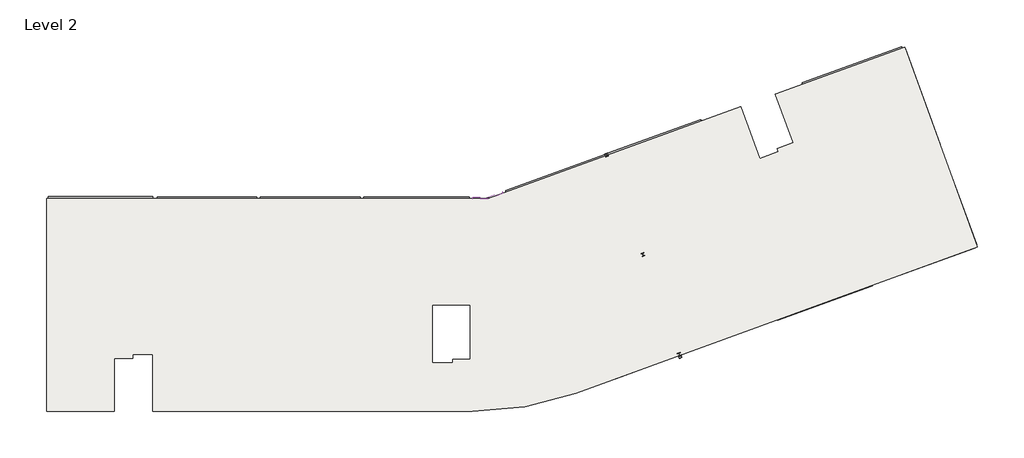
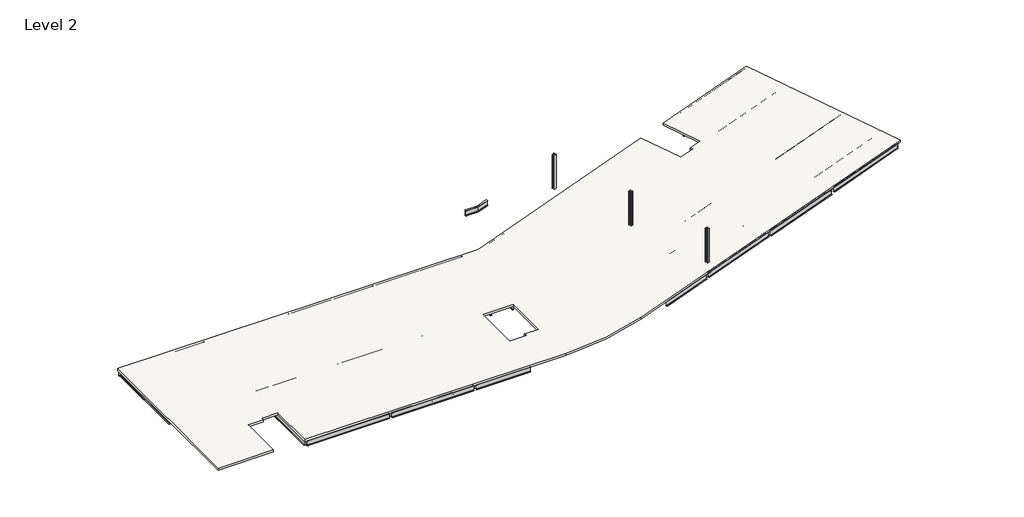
# One storey: 88 beams, 3 columns, 1 slab.
"""IFC4 building model written with IfcOpenShell, lengths in millimetres."""

from ifc_helpers import new_model, si_unit, frame, origin, place, context, project, spatial, circle_curve, transform, mapped, element, save
from ifc_brep_helpers import plane_surface, cylinder_surface, advanced_brep
from components import beam_fb4f222d, l_unequal_leg_angles_l150x75x12_5957f89b, ub_universal_beams_ub305x127x37_f823aa85, ub_universal_beams_ub305x127x37_cdbcbb51, ub_universal_beams_ub305x127x37_8d1efc97, ub_universal_beams_ub305x127x37_2b7a043a, ub_universal_beams_ub305x127x37_8d2b0bf5, ub_universal_beams_ub305x127x37_777f85ab, ub_universal_beams_ub305x127x37_16a75a32, ub_universal_beams_ub305x127x37_b9a7bbe5, ub_universal_beams_ub305x127x37_60794b88, ub_universal_beams_ub305x127x37_0c249d50, ub_universal_beams_ub457x152x67_de37d5a7, ub_universal_beams_ub457x152x67_a95554c7, ub_universal_beams_ub457x152x67_885cc86f, ub_universal_beams_ub457x152x67_c84566a2, ub_universal_beams_ub457x152x67_4841b023, ub_universal_beams_ub457x152x67_20791346, ub_universal_beams_ub457x152x67_59459dd6, ub_universal_beams_ub457x152x67_568b5c51, ub_universal_beams_ub457x152x67_feb0265b, ub_universal_beams_ub457x152x67_78ad538f, ub_universal_beams_ub457x152x67_801fcbf0, ub_universal_beams_ub457x152x67_7192e0ee, ub_universal_beams_ub457x152x67_e0a47d06, ub_universal_beams_ub457x152x67_f5dc209c, ub_universal_beams_ub457x152x67_f862a4b8, ub_universal_beams_ub457x152x67_21f5ef47, ub_universal_beams_ub457x152x67_7b4bcd9a, ub_universal_beams_ub457x152x67_37de3949, ub_universal_beams_ub457x152x67_656765b2, ub_universal_beams_ub457x152x67_43212cfb, ub_universal_beams_ub457x152x67_25e113f4, ub_universal_beams_ub457x152x67_bf94d013, ub_universal_beams_ub457x152x67_e915e172, ub_universal_beams_ub457x152x67_813faa96, ub_universal_beams_ub457x152x67_6f79b88a, ub_universal_beams_ub457x152x67_b3efd6a2, ub_universal_beams_ub457x152x67_5d27a3bd, ub_universal_beams_ub457x152x67_54a4210b, ub_universal_beams_ub457x152x67_30e2d671, ub_universal_beams_ub533x210x82_8ec85ef7, ub_universal_beams_ub533x210x82_0fc11a2d, ub_universal_beams_ub533x210x82_892b370d, uc_universal_columns_column_uc203x203x71_4bd1f15e

model = new_model("IFC4")

# Units and contexts
model_context = context("Model", 3, world=origin())
ifc_project = project(units=[si_unit("LENGTHUNIT", "METRE", prefix="MILLI")], contexts=[model_context])

# Site, building, storey
site = spatial("IfcSite", under=ifc_project)
building = spatial("IfcBuilding", under=site)
storey = spatial("IfcBuildingStorey", under=building, Name="Level 2", Elevation=7595.0)

# Beams
placement = place(None, origin())
beam_shape = beam_fb4f222d(model_context)
element("IfcBeam", 1, ObjectType="Cranked Beam B3 : Cranked Beam B1", at=placement, inside=storey, context=model_context, shape_type="MappedRepresentation", body=[
    mapped(beam_shape, transform((0.0, 0.0, 0.0), x_axis=(1.0, 0.0, 0.0), y_axis=(0.0, 1.0, 0.0), z_axis=(0.0, 0.0, 1.0))),
])
l_unequal_leg_angles_l150x75x12_shape = l_unequal_leg_angles_l150x75x12_5957f89b(model_context)
element("IfcBeam", 2, ObjectType="L-Unequal Leg Angles : L150x75x12", at=placement, inside=storey, context=model_context, shape_type="MappedRepresentation", body=[
    mapped(l_unequal_leg_angles_l150x75x12_shape, transform((45120.9767448, 4161.3796452, 7750.0), x_axis=(0.9396926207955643, 0.3420201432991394, 0.0), y_axis=(0.0, 0.0, 1.0), z_axis=(0.3420201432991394, -0.9396926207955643, 0.0))),
])
ub_universal_beams_ub305x127x37_shape = ub_universal_beams_ub305x127x37_f823aa85(model_context)
element("IfcBeam", 3, ObjectType="UB-Universal Beams : UB305x127x37", at=placement, inside=storey, context=model_context, shape_type="MappedRepresentation", body=[
    mapped(ub_universal_beams_ub305x127x37_shape, transform((9887.2000022, 11613.2000005, 7442.8), x_axis=(0.0, 1.0, 0.0), y_axis=(-1.0, 0.0, 0.0), z_axis=(0.0, 0.0, 1.0))),
])
element("IfcBeam", 4, ObjectType="UB-Universal Beams : UB305x127x37", at=placement, inside=storey, context=model_context, shape_type="MappedRepresentation", body=[
    mapped(ub_universal_beams_ub305x127x37_shape, transform((11712.2000022, 11613.2000005, 7442.8), x_axis=(0.0, 1.0, 0.0), y_axis=(-1.0, 0.0, 0.0), z_axis=(0.0, 0.0, 1.0))),
])
element("IfcBeam", 5, ObjectType="UB-Universal Beams : UB305x127x37", at=placement, inside=storey, context=model_context, shape_type="MappedRepresentation", body=[
    mapped(ub_universal_beams_ub305x127x37_shape, transform((13537.2000023, 11613.2000005, 7442.8), x_axis=(0.0, 1.0, 0.0), y_axis=(-1.0, 0.0, 0.0), z_axis=(0.0, 0.0, 1.0))),
])
element("IfcBeam", 6, ObjectType="UB-Universal Beams : UB305x127x37", at=placement, inside=storey, context=model_context, shape_type="MappedRepresentation", body=[
    mapped(ub_universal_beams_ub305x127x37_shape, transform((17187.2000023, 11613.2000005, 7442.8), x_axis=(0.0, 1.0, 0.0), y_axis=(-1.0, 0.0, 0.0), z_axis=(0.0, 0.0, 1.0))),
])
element("IfcBeam", 7, ObjectType="UB-Universal Beams : UB305x127x37", at=placement, inside=storey, context=model_context, shape_type="MappedRepresentation", body=[
    mapped(ub_universal_beams_ub305x127x37_shape, transform((19012.2000023, 11613.2000005, 7442.8), x_axis=(0.0, 1.0, 0.0), y_axis=(-1.0, 0.0, 0.0), z_axis=(0.0, 0.0, 1.0))),
])
element("IfcBeam", 8, ObjectType="UB-Universal Beams : UB305x127x37", at=placement, inside=storey, context=model_context, shape_type="MappedRepresentation", body=[
    mapped(ub_universal_beams_ub305x127x37_shape, transform((20837.2000022, 11613.2000005, 7442.8), x_axis=(0.0, 1.0, 0.0), y_axis=(-1.0, 0.0, 0.0), z_axis=(0.0, 0.0, 1.0))),
])
element("IfcBeam", 9, ObjectType="UB-Universal Beams : UB305x127x37", at=placement, inside=storey, context=model_context, shape_type="MappedRepresentation", body=[
    mapped(ub_universal_beams_ub305x127x37_shape, transform((24587.2000022, 11613.2000005, 7442.8), x_axis=(0.0, 1.0, 0.0), y_axis=(-1.0, 0.0, 0.0), z_axis=(0.0, 0.0, 1.0))),
])
element("IfcBeam", 10, ObjectType="UB-Universal Beams : UB305x127x37", at=placement, inside=storey, context=model_context, shape_type="MappedRepresentation", body=[
    mapped(ub_universal_beams_ub305x127x37_shape, transform((26512.2000022, 11613.2000005, 7442.8), x_axis=(0.0, 1.0, 0.0), y_axis=(-1.0, 0.0, 0.0), z_axis=(0.0, 0.0, 1.0))),
])
element("IfcBeam", 11, ObjectType="UB-Universal Beams : UB305x127x37", at=placement, inside=storey, context=model_context, shape_type="MappedRepresentation", body=[
    mapped(ub_universal_beams_ub305x127x37_shape, transform((17187.2000022, 4113.2000005, 7442.8), x_axis=(0.0, 1.0, 0.0), y_axis=(-1.0, 0.0, 0.0), z_axis=(0.0, 0.0, 1.0))),
])
element("IfcBeam", 12, ObjectType="UB-Universal Beams : UB305x127x37", at=placement, inside=storey, context=model_context, shape_type="MappedRepresentation", body=[
    mapped(ub_universal_beams_ub305x127x37_shape, transform((19012.2000022, 4113.2000005, 7442.8), x_axis=(0.0, 1.0, 0.0), y_axis=(-1.0, 0.0, 0.0), z_axis=(0.0, 0.0, 1.0))),
])
element("IfcBeam", 13, ObjectType="UB-Universal Beams : UB305x127x37", at=placement, inside=storey, context=model_context, shape_type="MappedRepresentation", body=[
    mapped(ub_universal_beams_ub305x127x37_shape, transform((20837.2000022, 4113.2000005, 7442.8), x_axis=(0.0, 1.0, 0.0), y_axis=(-1.0, 0.0, 0.0), z_axis=(0.0, 0.0, 1.0))),
])
element("IfcBeam", 14, ObjectType="UB-Universal Beams : UB305x127x37", at=placement, inside=storey, context=model_context, shape_type="MappedRepresentation", body=[
    mapped(ub_universal_beams_ub305x127x37_shape, transform((24587.2000022, 4113.2000004, 7442.8), x_axis=(0.0, 1.0, 0.0), y_axis=(-1.0, 0.0, 0.0), z_axis=(0.0, 0.0, 1.0))),
])
element("IfcBeam", 15, ObjectType="UB-Universal Beams : UB305x127x37", at=placement, inside=storey, context=model_context, shape_type="MappedRepresentation", body=[
    mapped(ub_universal_beams_ub305x127x37_shape, transform((26512.2000022, 4113.2000004, 7442.8), x_axis=(0.0, 1.0, 0.0), y_axis=(-1.0, 0.0, 0.0), z_axis=(0.0, 0.0, 1.0))),
])
element("IfcBeam", 16, ObjectType="UB-Universal Beams : UB305x127x37", at=placement, inside=storey, context=model_context, shape_type="MappedRepresentation", body=[
    mapped(ub_universal_beams_ub305x127x37_shape, transform((39409.0148654, 14226.6858637, 7442.8), x_axis=(0.34202014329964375, -0.9396926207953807, 0.0), y_axis=(0.9396926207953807, 0.34202014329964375, 0.0), z_axis=(0.0, 0.0, 1.0))),
])
element("IfcBeam", 17, ObjectType="UB-Universal Beams : UB305x127x37", at=placement, inside=storey, context=model_context, shape_type="MappedRepresentation", body=[
    mapped(ub_universal_beams_ub305x127x37_shape, transform((37600.1065704, 13568.2970878, 7442.8), x_axis=(0.34202014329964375, -0.9396926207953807, 0.0), y_axis=(0.9396926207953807, 0.34202014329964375, 0.0), z_axis=(0.0, 0.0, 1.0))),
])
element("IfcBeam", 18, ObjectType="UB-Universal Beams : UB305x127x37", at=placement, inside=storey, context=model_context, shape_type="MappedRepresentation", body=[
    mapped(ub_universal_beams_ub305x127x37_shape, transform((42915.2429568, 15502.8485233, 7442.8), x_axis=(-0.3420201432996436, 0.9396926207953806, 0.0), y_axis=(-0.9396926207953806, -0.3420201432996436, 0.0), z_axis=(0.0, 0.0, 1.0))),
])
element("IfcBeam", 19, ObjectType="UB-Universal Beams : UB305x127x37", at=placement, inside=storey, context=model_context, shape_type="MappedRepresentation", body=[
    mapped(ub_universal_beams_ub305x127x37_shape, transform((44612.5627531, 16120.6224071, 7442.8), x_axis=(-0.34202014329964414, 0.9396926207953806, 0.0), y_axis=(-0.9396926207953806, -0.34202014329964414, 0.0), z_axis=(0.0, 0.0, 1.0))),
])
element("IfcBeam", 20, ObjectType="UB-Universal Beams : UB305x127x37", at=placement, inside=storey, context=model_context, shape_type="MappedRepresentation", body=[
    mapped(ub_universal_beams_ub305x127x37_shape, transform((46309.8825494, 16738.396291, 7442.8), x_axis=(-0.34202014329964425, 0.9396926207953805, 0.0), y_axis=(-0.9396926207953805, -0.34202014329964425, 0.0), z_axis=(0.0, 0.0, 1.0))),
])
ub_universal_beams_ub305x127x37_2_shape = ub_universal_beams_ub305x127x37_cdbcbb51(model_context)
element("IfcBeam", 21, ObjectType="UB-Universal Beams : UB305x127x37", at=placement, inside=storey, context=model_context, shape_type="MappedRepresentation", body=[
    mapped(ub_universal_beams_ub305x127x37_2_shape, transform((28437.2000022, 11613.2000005, 7442.8), x_axis=(0.0, 1.0, 0.0), y_axis=(-1.0, 0.0, 0.0), z_axis=(0.0, 0.0, 1.0))),
])
ub_universal_beams_ub305x127x37_3_shape = ub_universal_beams_ub305x127x37_8d1efc97(model_context)
element("IfcBeam", 22, ObjectType="UB-Universal Beams : UB305x127x37", at=placement, inside=storey, context=model_context, shape_type="MappedRepresentation", body=[
    mapped(ub_universal_beams_ub305x127x37_3_shape, transform((35791.1982754, 12909.908312, 7442.8), x_axis=(0.3420201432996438, -0.9396926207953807, 0.0), y_axis=(0.9396926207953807, 0.3420201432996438, 0.0), z_axis=(0.0, 0.0, 1.0))),
])
ub_universal_beams_ub305x127x37_4_shape = ub_universal_beams_ub305x127x37_2b7a043a(model_context)
element("IfcBeam", 23, ObjectType="UB-Universal Beams : UB305x127x37", at=placement, inside=storey, context=model_context, shape_type="MappedRepresentation", body=[
    mapped(ub_universal_beams_ub305x127x37_4_shape, transform((42122.1150828, 5237.5069684, 7442.8), x_axis=(-0.939692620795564, -0.3420201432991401, 0.0), y_axis=(0.3420201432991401, -0.939692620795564, 0.0), z_axis=(0.0, 0.0, 1.0))),
])
element("IfcBeam", 24, ObjectType="UB-Universal Beams : UB305x127x37", at=placement, inside=storey, context=model_context, shape_type="MappedRepresentation", body=[
    mapped(ub_universal_beams_ub305x127x37_4_shape, transform((41480.8273141, 6999.4306323, 7442.8), x_axis=(-0.9396926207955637, -0.3420201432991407, 0.0), y_axis=(0.3420201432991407, -0.9396926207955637, 0.0), z_axis=(0.0, 0.0, 1.0))),
])
element("IfcBeam", 25, ObjectType="UB-Universal Beams : UB305x127x37", at=placement, inside=storey, context=model_context, shape_type="MappedRepresentation", body=[
    mapped(ub_universal_beams_ub305x127x37_4_shape, transform((40839.5395455, 8761.3542963, 7442.8), x_axis=(-0.939692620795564, -0.3420201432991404, 0.0), y_axis=(0.3420201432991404, -0.939692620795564, 0.0), z_axis=(0.0, 0.0, 1.0))),
])
ub_universal_beams_ub305x127x37_5_shape = ub_universal_beams_ub305x127x37_8d2b0bf5(model_context)
element("IfcBeam", 26, ObjectType="UB-Universal Beams : UB305x127x37", at=placement, inside=storey, context=model_context, shape_type="MappedRepresentation", body=[
    mapped(ub_universal_beams_ub305x127x37_5_shape, transform((46536.4260592, 10834.8514152, 7442.8), x_axis=(0.9396926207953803, 0.342020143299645, 0.0), y_axis=(-0.342020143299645, 0.9396926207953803, 0.0), z_axis=(0.0, 0.0, 1.0))),
])
element("IfcBeam", 27, ObjectType="UB-Universal Beams : UB305x127x37", at=placement, inside=storey, context=model_context, shape_type="MappedRepresentation", body=[
    mapped(ub_universal_beams_ub305x127x37_5_shape, transform((47177.7138279, 9072.9277512, 7442.8), x_axis=(0.9396926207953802, 0.34202014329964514, 0.0), y_axis=(-0.34202014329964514, 0.9396926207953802, 0.0), z_axis=(0.0, 0.0, 1.0))),
])
element("IfcBeam", 28, ObjectType="UB-Universal Beams : UB305x127x37", at=placement, inside=storey, context=model_context, shape_type="MappedRepresentation", body=[
    mapped(ub_universal_beams_ub305x127x37_5_shape, transform((47819.0015966, 7311.0040872, 7442.8), x_axis=(0.9396926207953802, 0.3420201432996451, 0.0), y_axis=(-0.3420201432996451, 0.9396926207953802, 0.0), z_axis=(0.0, 0.0, 1.0))),
])
ub_universal_beams_ub305x127x37_6_shape = ub_universal_beams_ub305x127x37_777f85ab(model_context)
element("IfcBeam", 29, ObjectType="UB-Universal Beams : UB305x127x37", at=placement, inside=storey, context=model_context, shape_type="MappedRepresentation", body=[
    mapped(ub_universal_beams_ub305x127x37_6_shape, transform((60479.1153202, 15909.5752914, 7442.8), x_axis=(0.9396926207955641, 0.34202014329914, 0.0), y_axis=(-0.34202014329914, 0.9396926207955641, 0.0), z_axis=(0.0, 0.0, 1.0))),
])
element("IfcBeam", 30, ObjectType="UB-Universal Beams : UB305x127x37", at=placement, inside=storey, context=model_context, shape_type="MappedRepresentation", body=[
    mapped(ub_universal_beams_ub305x127x37_6_shape, transform((61120.4030889, 14147.6516274, 7442.8), x_axis=(0.9396926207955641, 0.34202014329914, 0.0), y_axis=(-0.34202014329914, 0.9396926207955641, 0.0), z_axis=(0.0, 0.0, 1.0))),
])
element("IfcBeam", 31, ObjectType="UB-Universal Beams : UB305x127x37", at=placement, inside=storey, context=model_context, shape_type="MappedRepresentation", body=[
    mapped(ub_universal_beams_ub305x127x37_6_shape, transform((61761.6908576, 12385.7279634, 7442.8), x_axis=(0.9396926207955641, 0.3420201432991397, 0.0), y_axis=(-0.3420201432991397, 0.9396926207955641, 0.0), z_axis=(0.0, 0.0, 1.0))),
])
element("IfcBeam", 32, ObjectType="UB-Universal Beams : UB305x127x37", at=placement, inside=storey, context=model_context, shape_type="MappedRepresentation", body=[
    mapped(ub_universal_beams_ub305x127x37_6_shape, transform((57913.9642455, 22957.2699473, 7442.8), x_axis=(0.9396926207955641, 0.3420201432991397, 0.0), y_axis=(-0.3420201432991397, 0.9396926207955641, 0.0), z_axis=(0.0, 0.0, 1.0))),
])
element("IfcBeam", 33, ObjectType="UB-Universal Beams : UB305x127x37", at=placement, inside=storey, context=model_context, shape_type="MappedRepresentation", body=[
    mapped(ub_universal_beams_ub305x127x37_6_shape, transform((58555.2520142, 21195.3462833, 7442.8), x_axis=(0.9396926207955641, 0.3420201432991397, 0.0), y_axis=(-0.3420201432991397, 0.9396926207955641, 0.0), z_axis=(0.0, 0.0, 1.0))),
])
element("IfcBeam", 34, ObjectType="UB-Universal Beams : UB305x127x37", at=placement, inside=storey, context=model_context, shape_type="MappedRepresentation", body=[
    mapped(ub_universal_beams_ub305x127x37_6_shape, transform((59196.5397829, 19433.4226193, 7442.8), x_axis=(0.9396926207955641, 0.3420201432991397, 0.0), y_axis=(-0.3420201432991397, 0.9396926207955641, 0.0), z_axis=(0.0, 0.0, 1.0))),
])
ub_universal_beams_ub305x127x37_7_shape = ub_universal_beams_ub305x127x37_16a75a32(model_context)
element("IfcBeam", 35, ObjectType="UB-Universal Beams : UB305x127x37", at=placement, inside=storey, context=model_context, shape_type="MappedRepresentation", body=[
    mapped(ub_universal_beams_ub305x127x37_7_shape, transform((52185.7228693, 11321.365084, 7442.8), x_axis=(0.9396926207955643, 0.3420201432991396, 0.0), y_axis=(-0.3420201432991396, 0.9396926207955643, 0.0), z_axis=(0.0, 0.0, 1.0))),
])
element("IfcBeam", 36, ObjectType="UB-Universal Beams : UB305x127x37", at=placement, inside=storey, context=model_context, shape_type="MappedRepresentation", body=[
    mapped(ub_universal_beams_ub305x127x37_7_shape, transform((51681.2431579, 12707.4116997, 7442.8), x_axis=(0.9396926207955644, 0.34202014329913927, 0.0), y_axis=(-0.34202014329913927, 0.9396926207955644, 0.0), z_axis=(0.0, 0.0, 1.0))),
])
ub_universal_beams_ub305x127x37_8_shape = ub_universal_beams_ub305x127x37_b9a7bbe5(model_context)
element("IfcBeam", 37, ObjectType="UB-Universal Beams : UB305x127x37", at=placement, inside=storey, context=model_context, shape_type="MappedRepresentation", body=[
    mapped(ub_universal_beams_ub305x127x37_8_shape, transform((55650.8394085, 12582.5643624, 7442.8), x_axis=(0.939692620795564, 0.34202014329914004, 0.0), y_axis=(-0.34202014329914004, 0.939692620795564, 0.0), z_axis=(0.0, 0.0, 1.0))),
])
element("IfcBeam", 38, ObjectType="UB-Universal Beams : UB305x127x37", at=placement, inside=storey, context=model_context, shape_type="MappedRepresentation", body=[
    mapped(ub_universal_beams_ub305x127x37_8_shape, transform((56300.6776807, 10797.1483829, 7442.8), x_axis=(0.9396926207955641, 0.3420201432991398, 0.0), y_axis=(-0.3420201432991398, 0.9396926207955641, 0.0), z_axis=(0.0, 0.0, 1.0))),
])
element("IfcBeam", 39, ObjectType="UB-Universal Beams : UB305x127x37", at=placement, inside=storey, context=model_context, shape_type="MappedRepresentation", body=[
    mapped(ub_universal_beams_ub305x127x37_8_shape, transform((55146.3596971, 13968.6109781, 7442.8), x_axis=(0.9396926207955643, 0.34202014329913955, 0.0), y_axis=(-0.34202014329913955, 0.9396926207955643, 0.0), z_axis=(0.0, 0.0, 1.0))),
])
ub_universal_beams_ub305x127x37_9_shape = ub_universal_beams_ub305x127x37_60794b88(model_context)
element("IfcBeam", 40, ObjectType="UB-Universal Beams : UB305x127x37", at=placement, inside=storey, context=model_context, shape_type="MappedRepresentation", body=[
    mapped(ub_universal_beams_ub305x127x37_9_shape, transform((53431.3248942, 21325.7226526, 7442.8), x_axis=(-0.939692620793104, -0.34202014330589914, 0.0), y_axis=(0.34202014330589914, -0.939692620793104, 0.0), z_axis=(0.0, 0.0, 1.0))),
])
element("IfcBeam", 41, ObjectType="UB-Universal Beams : UB305x127x37", at=placement, inside=storey, context=model_context, shape_type="MappedRepresentation", body=[
    mapped(ub_universal_beams_ub305x127x37_9_shape, transform((54072.6126629, 19563.7989886, 7442.8), x_axis=(-0.939692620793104, -0.3420201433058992, 0.0), y_axis=(0.3420201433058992, -0.939692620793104, 0.0), z_axis=(0.0, 0.0, 1.0))),
])
element("IfcBeam", 42, ObjectType="UB-Universal Beams : UB305x127x37", at=placement, inside=storey, context=model_context, shape_type="MappedRepresentation", body=[
    mapped(ub_universal_beams_ub305x127x37_9_shape, transform((54713.9004316, 17801.8753247, 7442.8), x_axis=(-0.939692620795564, -0.34202014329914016, 0.0), y_axis=(0.34202014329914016, -0.939692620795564, 0.0), z_axis=(0.0, 0.0, 1.0))),
])
ub_universal_beams_ub305x127x37_10_shape = ub_universal_beams_ub305x127x37_0c249d50(model_context)
element("IfcBeam", 43, ObjectType="UB-Universal Beams : UB305x127x37", at=placement, inside=storey, context=model_context, shape_type="MappedRepresentation", body=[
    mapped(ub_universal_beams_ub305x127x37_10_shape, transform((52835.5611416, 9535.9491045, 7442.8), x_axis=(-0.9396926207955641, -0.34202014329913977, 0.0), y_axis=(0.34202014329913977, -0.9396926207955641, 0.0), z_axis=(0.0, 0.0, 1.0))),
])
ub_universal_beams_ub457x152x67_shape = ub_universal_beams_ub457x152x67_de37d5a7(model_context)
element("IfcBeam", 44, ObjectType="UB-Universal Beams : UB457x152x67", at=placement, inside=storey, context=model_context, shape_type="MappedRepresentation", body=[
    mapped(ub_universal_beams_ub457x152x67_shape, transform((26512.2000022, 15363.2000005, 7366.0), x_axis=(1.0, 0.0, 0.0), y_axis=(0.0, 1.0, 0.0), z_axis=(0.0, 0.0, 1.0))),
])
ub_universal_beams_ub457x152x67_2_shape = ub_universal_beams_ub457x152x67_a95554c7(model_context)
element("IfcBeam", 45, ObjectType="UB-Universal Beams : UB457x152x67", at=placement, inside=storey, context=model_context, shape_type="MappedRepresentation", body=[
    mapped(ub_universal_beams_ub457x152x67_2_shape, transform((19012.2000023, 15363.2000005, 7366.0), x_axis=(1.0, 0.0, 0.0), y_axis=(0.0, 1.0, 0.0), z_axis=(0.0, 0.0, 1.0))),
])
element("IfcBeam", 46, ObjectType="UB-Universal Beams : UB457x152x67", at=placement, inside=storey, context=model_context, shape_type="MappedRepresentation", body=[
    mapped(ub_universal_beams_ub457x152x67_2_shape, transform((19012.2000022, 363.2000005, 7366.0), x_axis=(1.0, 0.0, 0.0), y_axis=(0.0, 1.0, 0.0), z_axis=(0.0, 0.0, 1.0))),
])
ub_universal_beams_ub457x152x67_3_shape = ub_universal_beams_ub457x152x67_885cc86f(model_context)
element("IfcBeam", 47, ObjectType="UB-Universal Beams : UB457x152x67", at=placement, inside=storey, context=model_context, shape_type="MappedRepresentation", body=[
    mapped(ub_universal_beams_ub457x152x67_3_shape, transform((11674.7000023, 363.2000005, 7366.0), x_axis=(-1.0, 0.0, 0.0), y_axis=(0.0, -1.0, 0.0), z_axis=(0.0, 0.0, 1.0))),
])
ub_universal_beams_ub457x152x67_4_shape = ub_universal_beams_ub457x152x67_c84566a2(model_context)
element("IfcBeam", 48, ObjectType="UB-Universal Beams : UB457x152x67", at=placement, inside=storey, context=model_context, shape_type="MappedRepresentation", body=[
    mapped(ub_universal_beams_ub457x152x67_4_shape, transform((19012.2000023, 7863.2000004, 7366.0), x_axis=(1.0, 0.0, 0.0), y_axis=(0.0, 1.0, 0.0), z_axis=(0.0, 0.0, 1.0))),
])
ub_universal_beams_ub457x152x67_5_shape = ub_universal_beams_ub457x152x67_4841b023(model_context)
element("IfcBeam", 49, ObjectType="UB-Universal Beams : UB457x152x67", at=placement, inside=storey, context=model_context, shape_type="MappedRepresentation", body=[
    mapped(ub_universal_beams_ub457x152x67_5_shape, transform((25112.2000025, 7863.2000004, 7366.0), x_axis=(1.0, 0.0, 0.0), y_axis=(0.0, 1.0, 0.0), z_axis=(0.0, 0.0, 1.0))),
])
ub_universal_beams_ub457x152x67_6_shape = ub_universal_beams_ub457x152x67_20791346(model_context)
element("IfcBeam", 50, ObjectType="UB-Universal Beams : UB457x152x67", at=placement, inside=storey, context=model_context, shape_type="MappedRepresentation", body=[
    mapped(ub_universal_beams_ub457x152x67_6_shape, transform((25112.2000025, 363.2000005, 7366.0), x_axis=(1.0, 0.0, 0.0), y_axis=(0.0, 1.0, 0.0), z_axis=(0.0, 0.0, 1.0))),
])
ub_universal_beams_ub457x152x67_7_shape = ub_universal_beams_ub457x152x67_59459dd6(model_context)
element("IfcBeam", 51, ObjectType="UB-Universal Beams : UB457x152x67", at=placement, inside=storey, context=model_context, shape_type="MappedRepresentation", body=[
    mapped(ub_universal_beams_ub457x152x67_7_shape, transform((15362.2000023, 4113.2000005, 7366.0), x_axis=(0.0, 1.0, 0.0), y_axis=(-1.0, 0.0, 0.0), z_axis=(0.0, 0.0, 1.0))),
])
element("IfcBeam", 52, ObjectType="UB-Universal Beams : UB457x152x67", at=placement, inside=storey, context=model_context, shape_type="MappedRepresentation", body=[
    mapped(ub_universal_beams_ub457x152x67_7_shape, transform((22662.2000022, 4113.2000005, 7366.0), x_axis=(0.0, 1.0, 0.0), y_axis=(-1.0, 0.0, 0.0), z_axis=(0.0, 0.0, 1.0))),
])
ub_universal_beams_ub457x152x67_8_shape = ub_universal_beams_ub457x152x67_568b5c51(model_context)
element("IfcBeam", 53, ObjectType="UB-Universal Beams : UB457x152x67", at=placement, inside=storey, context=model_context, shape_type="MappedRepresentation", body=[
    mapped(ub_universal_beams_ub457x152x67_8_shape, transform((15362.2000023, 11613.2000005, 7366.0), x_axis=(0.0, 1.0, 0.0), y_axis=(-1.0, 0.0, 0.0), z_axis=(0.0, 0.0, 1.0))),
])
element("IfcBeam", 54, ObjectType="UB-Universal Beams : UB457x152x67", at=placement, inside=storey, context=model_context, shape_type="MappedRepresentation", body=[
    mapped(ub_universal_beams_ub457x152x67_8_shape, transform((22662.2000022, 11613.2000005, 7366.0), x_axis=(0.0, 1.0, 0.0), y_axis=(-1.0, 0.0, 0.0), z_axis=(0.0, 0.0, 1.0))),
])
ub_universal_beams_ub457x152x67_9_shape = ub_universal_beams_ub457x152x67_feb0265b(model_context)
element("IfcBeam", 55, ObjectType="UB-Universal Beams : UB457x152x67", at=placement, inside=storey, context=model_context, shape_type="MappedRepresentation", body=[
    mapped(ub_universal_beams_ub457x152x67_9_shape, transform((32191.7898055, 11821.5156209, 7366.0), x_axis=(0.173648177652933, -0.9848077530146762, 0.0), y_axis=(0.9848077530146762, 0.173648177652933, 0.0), z_axis=(0.0, 0.0, 1.0))),
])
ub_universal_beams_ub457x152x67_10_shape = ub_universal_beams_ub457x152x67_78ad538f(model_context)
element("IfcBeam", 56, ObjectType="UB-Universal Beams : UB457x152x67", at=placement, inside=storey, context=model_context, shape_type="MappedRepresentation", body=[
    mapped(ub_universal_beams_ub457x152x67_10_shape, transform((31317.5755278, 11361.2273115, 7366.0), x_axis=(1.0, 0.0, 0.0), y_axis=(0.0, 1.0, 0.0), z_axis=(0.0, 0.0, 1.0))),
])
ub_universal_beams_ub457x152x67_11_shape = ub_universal_beams_ub457x152x67_801fcbf0(model_context)
element("IfcBeam", 57, ObjectType="UB-Universal Beams : UB457x152x67", at=placement, inside=storey, context=model_context, shape_type="MappedRepresentation", body=[
    mapped(ub_universal_beams_ub457x152x67_11_shape, transform((33170.7103845, 11687.9849855, 7366.0), x_axis=(0.9396926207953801, 0.3420201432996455, 0.0), y_axis=(-0.3420201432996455, 0.9396926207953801, 0.0), z_axis=(0.0, 0.0, 1.0))),
])
ub_universal_beams_ub457x152x67_12_shape = ub_universal_beams_ub457x152x67_7192e0ee(model_context)
element("IfcBeam", 58, ObjectType="UB-Universal Beams : UB457x152x67", at=placement, inside=storey, context=model_context, shape_type="MappedRepresentation", body=[
    mapped(ub_universal_beams_ub457x152x67_12_shape, transform((43329.9872158, 19644.4697351, 7366.0), x_axis=(0.9396926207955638, 0.3420201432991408, 0.0), y_axis=(-0.3420201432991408, 0.9396926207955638, 0.0), z_axis=(0.0, 0.0, 1.0))),
])
element("IfcBeam", 59, ObjectType="UB-Universal Beams : UB457x152x67", at=placement, inside=storey, context=model_context, shape_type="MappedRepresentation", body=[
    mapped(ub_universal_beams_ub457x152x67_12_shape, transform((45895.1382905, 12596.7750792, 7366.0), x_axis=(0.9396926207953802, 0.34202014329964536, 0.0), y_axis=(-0.34202014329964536, 0.9396926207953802, 0.0), z_axis=(0.0, 0.0, 1.0))),
])
element("IfcBeam", 60, ObjectType="UB-Universal Beams : UB457x152x67", at=placement, inside=storey, context=model_context, shape_type="MappedRepresentation", body=[
    mapped(ub_universal_beams_ub457x152x67_12_shape, transform((48460.2893652, 5549.0804232, 7366.0), x_axis=(0.9396926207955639, 0.3420201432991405, 0.0), y_axis=(-0.3420201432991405, 0.9396926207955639, 0.0), z_axis=(0.0, 0.0, 1.0))),
])
ub_universal_beams_ub457x152x67_13_shape = ub_universal_beams_ub457x152x67_e0a47d06(model_context)
element("IfcBeam", 61, ObjectType="UB-Universal Beams : UB457x152x67", at=placement, inside=storey, context=model_context, shape_type="MappedRepresentation", body=[
    mapped(ub_universal_beams_ub457x152x67_13_shape, transform((40198.2517768, 10523.2779603, 7366.0), x_axis=(0.9396926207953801, 0.34202014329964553, 0.0), y_axis=(-0.34202014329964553, 0.9396926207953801, 0.0), z_axis=(0.0, 0.0, 1.0))),
])
ub_universal_beams_ub457x152x67_14_shape = ub_universal_beams_ub457x152x67_f5dc209c(model_context)
element("IfcBeam", 62, ObjectType="UB-Universal Beams : UB457x152x67", at=placement, inside=storey, context=model_context, shape_type="MappedRepresentation", body=[
    mapped(ub_universal_beams_ub457x152x67_14_shape, transform((41217.9231605, 14885.0746394, 7366.0), x_axis=(-0.3420201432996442, 0.9396926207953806, 0.0), y_axis=(-0.9396926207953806, -0.3420201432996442, 0.0), z_axis=(0.0, 0.0, 1.0))),
])
element("IfcBeam", 63, ObjectType="UB-Universal Beams : UB457x152x67", at=placement, inside=storey, context=model_context, shape_type="MappedRepresentation", body=[
    mapped(ub_universal_beams_ub457x152x67_14_shape, transform((64738.219679, 15464.4291791, 7366.0), x_axis=(-0.34202014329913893, 0.9396926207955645, 0.0), y_axis=(-0.9396926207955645, -0.34202014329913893, 0.0), z_axis=(0.0, 0.0, 1.0))),
])
element("IfcBeam", 64, ObjectType="UB-Universal Beams : UB457x152x67", at=placement, inside=storey, context=model_context, shape_type="MappedRepresentation", body=[
    mapped(ub_universal_beams_ub457x152x67_14_shape, transform((62173.0686043, 22512.123835, 7366.0), x_axis=(-0.3420201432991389, 0.9396926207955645, 0.0), y_axis=(-0.9396926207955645, -0.3420201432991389, 0.0), z_axis=(0.0, 0.0, 1.0))),
])
ub_universal_beams_ub457x152x67_15_shape = ub_universal_beams_ub457x152x67_f862a4b8(model_context)
element("IfcBeam", 65, ObjectType="UB-Universal Beams : UB457x152x67", at=placement, inside=storey, context=model_context, shape_type="MappedRepresentation", body=[
    mapped(ub_universal_beams_ub457x152x67_15_shape, transform((42763.4028515, 3475.5833044, 7366.0), x_axis=(-0.9396926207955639, -0.34202014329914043, 0.0), y_axis=(0.34202014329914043, -0.9396926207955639, 0.0), z_axis=(0.0, 0.0, 1.0))),
])
ub_universal_beams_ub457x152x67_16_shape = ub_universal_beams_ub457x152x67_21f5ef47(model_context)
element("IfcBeam", 66, ObjectType="UB-Universal Beams : UB457x152x67", at=placement, inside=storey, context=model_context, shape_type="MappedRepresentation", body=[
    mapped(ub_universal_beams_ub457x152x67_16_shape, transform((57272.6764768, 24719.1936113, 7366.0), x_axis=(-0.9396926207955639, -0.3420201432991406, 0.0), y_axis=(0.3420201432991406, -0.9396926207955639, 0.0), z_axis=(0.0, 0.0, 1.0))),
])
ub_universal_beams_ub457x152x67_17_shape = ub_universal_beams_ub457x152x67_7b4bcd9a(model_context)
element("IfcBeam", 67, ObjectType="UB-Universal Beams : UB457x152x67", at=placement, inside=storey, context=model_context, shape_type="MappedRepresentation", body=[
    mapped(ub_universal_beams_ub457x152x67_17_shape, transform((54937.4354241, 19878.5687316, 7366.0), x_axis=(-0.3420201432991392, 0.9396926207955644, 0.0), y_axis=(-0.9396926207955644, -0.3420201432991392, 0.0), z_axis=(0.0, 0.0, 1.0))),
])
ub_universal_beams_ub457x152x67_18_shape = ub_universal_beams_ub457x152x67_37de3949(model_context)
element("IfcBeam", 68, ObjectType="UB-Universal Beams : UB457x152x67", at=placement, inside=storey, context=model_context, shape_type="MappedRepresentation", body=[
    mapped(ub_universal_beams_ub457x152x67_18_shape, transform((59849.5737093, 17675.7742072, 7366.0), x_axis=(0.9396926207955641, 0.3420201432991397, 0.0), y_axis=(-0.3420201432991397, 0.9396926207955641, 0.0), z_axis=(0.0, 0.0, 1.0))),
])
ub_universal_beams_ub457x152x67_19_shape = ub_universal_beams_ub457x152x67_656765b2(model_context)
element("IfcBeam", 69, ObjectType="UB-Universal Beams : UB457x152x67", at=placement, inside=storey, context=model_context, shape_type="MappedRepresentation", body=[
    mapped(ub_universal_beams_ub457x152x67_19_shape, transform((62402.9786263, 10623.8042994, 7366.0), x_axis=(0.9396926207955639, 0.34202014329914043, 0.0), y_axis=(-0.34202014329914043, 0.9396926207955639, 0.0), z_axis=(0.0, 0.0, 1.0))),
])
ub_universal_beams_ub457x152x67_20_shape = ub_universal_beams_ub457x152x67_43212cfb(model_context)
element("IfcBeam", 70, ObjectType="UB-Universal Beams : UB457x152x67", at=placement, inside=storey, context=model_context, shape_type="MappedRepresentation", body=[
    mapped(ub_universal_beams_ub457x152x67_20_shape, transform((57502.5864988, 12830.8740757, 7366.0), x_axis=(0.3420201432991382, -0.9396926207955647, 0.0), y_axis=(0.9396926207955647, 0.3420201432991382, 0.0), z_axis=(0.0, 0.0, 1.0))),
])
ub_universal_beams_ub457x152x67_21_shape = ub_universal_beams_ub457x152x67_25e113f4(model_context)
element("IfcBeam", 71, ObjectType="UB-Universal Beams : UB457x152x67", at=placement, inside=storey, context=model_context, shape_type="MappedRepresentation", body=[
    mapped(ub_universal_beams_ub457x152x67_21_shape, transform((614.1000027, 11575.7000004, 7366.0), x_axis=(0.0, 1.0, 0.0), y_axis=(-1.0, 0.0, 0.0), z_axis=(0.0, 0.0, 1.0))),
])
element("IfcBeam", 72, ObjectType="UB-Universal Beams : UB457x152x67", at=placement, inside=storey, context=model_context, shape_type="MappedRepresentation", body=[
    mapped(ub_universal_beams_ub457x152x67_21_shape, transform((2457.6125027, 11575.7000004, 7366.0), x_axis=(0.0, 1.0, 0.0), y_axis=(-1.0, 0.0, 0.0), z_axis=(0.0, 0.0, 1.0))),
])
element("IfcBeam", 73, ObjectType="UB-Universal Beams : UB457x152x67", at=placement, inside=storey, context=model_context, shape_type="MappedRepresentation", body=[
    mapped(ub_universal_beams_ub457x152x67_21_shape, transform((4301.1250026, 11575.7000004, 7366.0), x_axis=(0.0, 1.0, 0.0), y_axis=(-1.0, 0.0, 0.0), z_axis=(0.0, 0.0, 1.0))),
])
element("IfcBeam", 74, ObjectType="UB-Universal Beams : UB457x152x67", at=placement, inside=storey, context=model_context, shape_type="MappedRepresentation", body=[
    mapped(ub_universal_beams_ub457x152x67_21_shape, transform((6144.6375025, 11575.7000005, 7366.0), x_axis=(0.0, 1.0, 0.0), y_axis=(-1.0, 0.0, 0.0), z_axis=(0.0, 0.0, 1.0))),
])
ub_universal_beams_ub457x152x67_22_shape = ub_universal_beams_ub457x152x67_bf94d013(model_context)
element("IfcBeam", 75, ObjectType="UB-Universal Beams : UB457x152x67", at=placement, inside=storey, context=model_context, shape_type="MappedRepresentation", body=[
    mapped(ub_universal_beams_ub457x152x67_22_shape, transform((9831.6625024, 4113.2000005, 7366.0), x_axis=(0.0, 1.0, 0.0), y_axis=(-1.0, 0.0, 0.0), z_axis=(0.0, 0.0, 1.0))),
])
element("IfcBeam", 76, ObjectType="UB-Universal Beams : UB457x152x67", at=placement, inside=storey, context=model_context, shape_type="MappedRepresentation", body=[
    mapped(ub_universal_beams_ub457x152x67_22_shape, transform((11675.1750024, 4113.2000005, 7366.0), x_axis=(0.0, 1.0, 0.0), y_axis=(-1.0, 0.0, 0.0), z_axis=(0.0, 0.0, 1.0))),
])
element("IfcBeam", 77, ObjectType="UB-Universal Beams : UB457x152x67", at=placement, inside=storey, context=model_context, shape_type="MappedRepresentation", body=[
    mapped(ub_universal_beams_ub457x152x67_22_shape, transform((13518.6875023, 4113.2000005, 7366.0), x_axis=(0.0, 1.0, 0.0), y_axis=(-1.0, 0.0, 0.0), z_axis=(0.0, 0.0, 1.0))),
])
ub_universal_beams_ub457x152x67_23_shape = ub_universal_beams_ub457x152x67_e915e172(model_context)
element("IfcBeam", 78, ObjectType="UB-Universal Beams : UB457x152x67", at=placement, inside=storey, context=model_context, shape_type="MappedRepresentation", body=[
    mapped(ub_universal_beams_ub457x152x67_23_shape, transform((11712.2000023, 15363.2000005, 7366.0), x_axis=(1.0, 0.0, 0.0), y_axis=(0.0, 1.0, 0.0), z_axis=(0.0, 0.0, 1.0))),
])
ub_universal_beams_ub457x152x67_24_shape = ub_universal_beams_ub457x152x67_813faa96(model_context)
element("IfcBeam", 79, ObjectType="UB-Universal Beams : UB457x152x67", at=placement, inside=storey, context=model_context, shape_type="MappedRepresentation", body=[
    mapped(ub_universal_beams_ub457x152x67_24_shape, transform((7988.1500025, 7863.2000005, 7366.0), x_axis=(0.0, 1.0, 0.0), y_axis=(-1.0, 0.0, 0.0), z_axis=(0.0, 0.0, 1.0))),
])
element("IfcBeam", 80, ObjectType="UB-Universal Beams : UB457x152x67", at=placement, inside=storey, context=model_context, shape_type="MappedRepresentation", body=[
    mapped(ub_universal_beams_ub457x152x67_14_shape, transform((43783.0742352, 7837.3799835, 7366.0), x_axis=(-0.3420201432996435, 0.939692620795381, 0.0), y_axis=(-0.939692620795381, -0.3420201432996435, 0.0), z_axis=(0.0, 0.0, 1.0))),
])
ub_universal_beams_ub457x152x67_25_shape = ub_universal_beams_ub457x152x67_6f79b88a(model_context)
element("IfcBeam", 81, ObjectType="UB-Universal Beams : UB457x152x67", at=placement, inside=storey, context=model_context, shape_type="MappedRepresentation", body=[
    mapped(ub_universal_beams_ub457x152x67_25_shape, transform((8062.2000022, 11613.2000005, 7366.0), x_axis=(0.0, 1.0, 0.0), y_axis=(-1.0, 0.0, 0.0), z_axis=(0.0, 0.0, 1.0))),
])
ub_universal_beams_ub457x152x67_26_shape = ub_universal_beams_ub457x152x67_b3efd6a2(model_context)
element("IfcBeam", 82, ObjectType="UB-Universal Beams : UB457x152x67", at=placement, inside=storey, context=model_context, shape_type="MappedRepresentation", body=[
    mapped(ub_universal_beams_ub457x152x67_26_shape, transform((11675.1750024, 7863.2000004, 7366.0), x_axis=(-1.0, 0.0, 0.0), y_axis=(0.0, -1.0, 0.0), z_axis=(0.0, 0.0, 1.0))),
])
ub_universal_beams_ub457x152x67_27_shape = ub_universal_beams_ub457x152x67_5d27a3bd(model_context)
element("IfcBeam", 83, ObjectType="UB-Universal Beams : UB457x152x67", at=placement, inside=storey, context=model_context, shape_type="MappedRepresentation", body=[
    mapped(ub_universal_beams_ub457x152x67_27_shape, transform((30362.2000022, 11613.2000005, 7366.0), x_axis=(0.0, 1.0, 0.0), y_axis=(-1.0, 0.0, 0.0), z_axis=(0.0, 0.0, 1.0))),
])
ub_universal_beams_ub457x152x67_28_shape = ub_universal_beams_ub457x152x67_54a4210b(model_context)
element("IfcBeam", 84, ObjectType="UB-Universal Beams : UB457x152x67", at=placement, inside=storey, context=model_context, shape_type="MappedRepresentation", body=[
    mapped(ub_universal_beams_ub457x152x67_28_shape, transform((33982.2899804, 12251.5195361, 7366.0), x_axis=(0.3420201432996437, -0.9396926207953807, 0.0), y_axis=(0.9396926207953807, 0.3420201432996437, 0.0), z_axis=(0.0, 0.0, 1.0))),
])
ub_universal_beams_ub457x152x67_29_shape = ub_universal_beams_ub457x152x67_30e2d671(model_context)
element("IfcBeam", 85, ObjectType="UB-Universal Beams : UB457x152x67", at=placement, inside=storey, context=model_context, shape_type="MappedRepresentation", body=[
    mapped(ub_universal_beams_ub457x152x67_29_shape, transform((36317.5310328, 17092.1444158, 7366.0), x_axis=(0.9396926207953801, 0.3420201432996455, 0.0), y_axis=(-0.3420201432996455, 0.9396926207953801, 0.0), z_axis=(0.0, 0.0, 1.0))),
])
ub_universal_beams_ub533x210x82_shape = ub_universal_beams_ub533x210x82_8ec85ef7(model_context)
element("IfcBeam", 86, ObjectType="UB-Universal Beams : UB533x210x82", at=placement, inside=storey, context=model_context, shape_type="MappedRepresentation", body=[
    mapped(ub_universal_beams_ub533x210x82_shape, transform((54042.3541451, 11665.8982726, 7330.85), x_axis=(-0.34202014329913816, 0.9396926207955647, 0.0), y_axis=(-0.9396926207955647, -0.34202014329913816, 0.0), z_axis=(0.0, 0.0, 1.0))),
])
ub_universal_beams_ub533x210x82_2_shape = ub_universal_beams_ub533x210x82_0fc11a2d(model_context)
element("IfcBeam", 87, ObjectType="UB-Universal Beams : UB533x210x82", at=placement, inside=storey, context=model_context, shape_type="MappedRepresentation", body=[
    mapped(ub_universal_beams_ub533x210x82_2_shape, transform((55320.045497, 8045.8274693, 7330.85), x_axis=(0.9396926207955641, 0.3420201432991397, 0.0), y_axis=(-0.3420201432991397, 0.9396926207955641, 0.0), z_axis=(0.0, 0.0, 1.0))),
])
ub_universal_beams_ub533x210x82_3_shape = ub_universal_beams_ub533x210x82_892b370d(model_context)
element("IfcBeam", 88, ObjectType="UB-Universal Beams : UB533x210x82", at=placement, inside=storey, context=model_context, shape_type="MappedRepresentation", body=[
    mapped(ub_universal_beams_ub533x210x82_3_shape, transform((4212.2000022, 15363.2000005, 7330.85), x_axis=(1.0, 0.0, 0.0), y_axis=(0.0, 1.0, 0.0), z_axis=(0.0, 0.0, 1.0))),
])

# Columns
uc_universal_columns_column_uc203x203x71_shape = uc_universal_columns_column_uc203x203x71_4bd1f15e(model_context)
element("IfcColumn", 89, ObjectType="UC-Universal Columns-Column : UC203x203x71", at=placement, inside=storey, context=model_context, shape_type="MappedRepresentation", body=[
    mapped(uc_universal_columns_column_uc203x203x71_shape, transform((42500.4986978, 11361.2273115, 0.0), x_axis=(0.9396926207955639, 0.3420201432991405, 0.0), y_axis=(-0.3420201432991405, 0.9396926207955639, 0.0), z_axis=(0.0, 0.0, 1.0))),
])
element("IfcColumn", 90, ObjectType="UC-Universal Columns-Column : UC203x203x71", at=placement, inside=storey, context=model_context, shape_type="MappedRepresentation", body=[
    mapped(uc_universal_columns_column_uc203x203x71_shape, transform((45065.6497726, 4313.5326555, 0.0), x_axis=(0.939692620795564, 0.3420201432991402, 0.0), y_axis=(-0.3420201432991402, 0.939692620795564, 0.0), z_axis=(0.0, 0.0, 1.0))),
])
element("IfcColumn", 91, ObjectType="UC-Universal Columns-Column : UC203x203x71", at=placement, inside=storey, context=model_context, shape_type="MappedRepresentation", body=[
    mapped(uc_universal_columns_column_uc203x203x71_shape, transform((39935.3476231, 18408.9219674, 0.0), x_axis=(0.9396926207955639, 0.3420201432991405, 0.0), y_axis=(-0.3420201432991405, 0.9396926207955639, 0.0), z_axis=(0.0, 0.0, 1.0))),
])

# Slab
element("IfcSlab", 92, ObjectType="RC COMP 175", at=placement, inside=storey, context=model_context, shape_type="AdvancedBrep", body=[
    advanced_brep(
    [(31575.1947409, 15318.4000004, 7595.0), (49412.7637168, 21810.7441587, 7595.0), (50743.9061145, 18153.4604787, 7595.0), (52050.0788572, 18628.8684778, 7595.0), (51964.5738214, 18863.791633, 7595.0), (53092.2049665, 19274.215805, 7595.0), (51846.5676046, 22696.5763298, 7595.0), (60969.2448211, 26016.9592931, 7595.0), (66109.9443828, 11893.0033256, 7595.0), (37761.7672424, 1575.1106518, 7595.0), (30462.2000024, 288.0, 7595.0), (7887.2000024, 288.0, 7595.0), (7887.2000024, 4300.0, 7595.0), (6497.2000024, 4300.0, 7595.0), (6497.2000024, 4050.0, 7595.0), (5180.4333362, 4050.0, 7595.0), (5180.4333362, 288.0, 7595.0), (408.0, 288.0, 7595.0), (408.0000012, 7688.2000003, 7595.0), (408.0000013, 7888.2000003, 7595.0), (408.0000025, 15318.4000008, 7595.0), (27662.2000028, 7763.2000004, 7595.0), (27662.2000028, 3763.2000006, 7595.0), (29052.2000029, 3763.2000006, 7595.0), (29052.2000029, 4013.2000006, 7595.0), (30262.2000024, 4013.2000006, 7595.0), (30262.2000024, 7763.2000004, 7595.0), (31575.1947409, 15318.4000004, 7795.0), (408.0000025, 15318.4000008, 7795.0), (408.0000013, 7888.2000003, 7795.0), (408.0000012, 7688.2000003, 7795.0), (408.0, 288.0, 7795.0), (5180.4333362, 288.0, 7795.0), (5180.4333362, 4050.0, 7795.0), (6497.2000024, 4050.0, 7795.0), (6497.2000024, 4300.0, 7795.0), (7887.2000024, 4300.0, 7795.0), (7887.2000024, 288.0, 7795.0), (30462.2000024, 288.0, 7795.0), (37761.7672424, 1575.1106518, 7795.0), (66109.9443828, 11893.0033256, 7795.0), (60969.2448211, 26016.9592931, 7795.0), (51846.5676046, 22696.5763298, 7795.0), (53092.2049665, 19274.215805, 7795.0), (51964.5738214, 18863.791633, 7795.0), (52050.0788572, 18628.8684778, 7795.0), (50743.9061145, 18153.4604787, 7795.0), (49412.7637168, 21810.7441587, 7795.0), (27662.2000028, 7763.2000004, 7795.0), (30262.2000024, 7763.2000004, 7795.0), (30262.2000024, 4013.2000006, 7795.0), (29052.2000029, 4013.2000006, 7795.0), (29052.2000029, 3763.2000006, 7795.0), (27662.2000028, 3763.2000006, 7795.0)],
    [
        (0, 1),
        (1, 2),
        (2, 3),
        (3, 4),
        (4, 5),
        (5, 6),
        (6, 7),
        (7, 8),
        (8, 9),
        (9, 10, circle_curve(frame((30462.2000024, 21630.5068175, 7595.0), z_axis=(0.0, 0.0, -1.0), x_axis=(1.0, 0.0, 0.0)), 21342.5068175)),
        (10, 11),
        (11, 12),
        (12, 13),
        (13, 14),
        (14, 15),
        (15, 16),
        (16, 17),
        (17, 18),
        (18, 19),
        (19, 20),
        (20, 0),
        (21, 22),
        (22, 23),
        (23, 24),
        (24, 25),
        (25, 26),
        (26, 21),
        (27, 28),
        (28, 29),
        (29, 30),
        (30, 31),
        (31, 32),
        (32, 33),
        (33, 34),
        (34, 35),
        (35, 36),
        (36, 37),
        (37, 38),
        (38, 39, circle_curve(frame((30462.2000024, 21630.5068175, 7795.0), z_axis=(0.0, 0.0, 1.0), x_axis=(1.0, 0.0, 0.0)), 21342.5068175)),
        (39, 40),
        (40, 41),
        (41, 42),
        (42, 43),
        (43, 44),
        (44, 45),
        (45, 46),
        (46, 47),
        (47, 27),
        (48, 49),
        (49, 50),
        (50, 51),
        (51, 52),
        (52, 53),
        (53, 48),
        (10, 38),
        (37, 11),
        (17, 31),
        (28, 20),
        (27, 0),
        (47, 1),
        (7, 41),
        (40, 8),
        (39, 9),
        (46, 2),
        (45, 3),
        (44, 4),
        (43, 5),
        (42, 6),
        (36, 12),
        (35, 13),
        (34, 14),
        (33, 15),
        (32, 16),
        (21, 48),
        (53, 22),
        (52, 23),
        (51, 24),
        (50, 25),
        (49, 26),
    ],
    [
        plane_surface(frame((31575.1947409, 15318.4000004, 7595.0), z_axis=(0.0, 0.0, -1.0), x_axis=(0.9396926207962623, 0.3420201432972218, 0.0))),
        plane_surface(frame((31575.1947409, 15318.4000004, 7795.0), z_axis=(0.0, 0.0, 1.0), x_axis=(-0.9396926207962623, -0.3420201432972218, 0.0))),
        plane_surface(frame((30462.2000024, 288.0, 7595.0), z_axis=(0.0, -1.0, 0.0), x_axis=(0.0, 0.0, 1.0))),
        plane_surface(frame((408.0, 288.0, 7595.0), z_axis=(-1.0, 1.600286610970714e-10, 0.0), x_axis=(0.0, 0.0, 1.0))),
        plane_surface(frame((408.0000025, 15318.4000008, 7595.0), z_axis=(1.1443360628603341e-11, 1.0, 0.0), x_axis=(0.0, 0.0, 1.0))),
        plane_surface(frame((31575.1947409, 15318.4000004, 7595.0), z_axis=(-0.3420201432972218, 0.9396926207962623, 0.0), x_axis=(0.0, 0.0, 1.0))),
        plane_surface(frame((60969.2448211, 26016.9592931, 7595.0), z_axis=(0.9396926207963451, 0.3420201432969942, 0.0), x_axis=(0.0, 0.0, 1.0))),
        plane_surface(frame((66109.9443828, 11893.0033256, 7595.0), z_axis=(0.3420201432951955, -0.9396926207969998, 0.0), x_axis=(0.0, 0.0, 1.0))),
        cylinder_surface(frame((30462.2000024, 21630.5068175, 7795.0), z_axis=(0.0, 0.0, -1.0), x_axis=(1.0, 0.0, 0.0)), 21342.5068175),
        plane_surface(frame((49412.7637168, 21810.7441587, 7595.0), z_axis=(0.9396926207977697, 0.34202014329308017, 0.0), x_axis=(0.0, 0.0, 1.0))),
        plane_surface(frame((50743.9061145, 18153.4604787, 7595.0), z_axis=(-0.34202014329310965, 0.9396926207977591, 0.0), x_axis=(0.0, 0.0, 1.0))),
        plane_surface(frame((52050.0788572, 18628.8684778, 7595.0), z_axis=(-0.9396926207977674, -0.3420201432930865, 0.0), x_axis=(0.0, 0.0, 1.0))),
        plane_surface(frame((51964.5738214, 18863.791633, 7595.0), z_axis=(-0.3420201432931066, 0.9396926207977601, 0.0), x_axis=(0.0, 0.0, 1.0))),
        plane_surface(frame((53092.2049665, 19274.215805, 7595.0), z_axis=(-0.9396926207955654, -0.34202014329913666, 0.0), x_axis=(0.0, 0.0, 1.0))),
        plane_surface(frame((51846.5676046, 22696.5763298, 7595.0), z_axis=(-0.3420201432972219, 0.9396926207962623, 0.0), x_axis=(0.0, 0.0, 1.0))),
        plane_surface(frame((7887.2000024, 288.0, 7595.0), z_axis=(-1.0, 0.0, 0.0), x_axis=(0.0, 0.0, 1.0))),
        plane_surface(frame((7887.2000024, 4300.0, 7595.0), z_axis=(0.0, -1.0, 0.0), x_axis=(0.0, 0.0, 1.0))),
        plane_surface(frame((6497.2000024, 4300.0, 7595.0), z_axis=(1.0, 0.0, 0.0), x_axis=(0.0, 0.0, 1.0))),
        plane_surface(frame((6497.2000024, 4050.0, 7595.0), z_axis=(0.0, -1.0, 0.0), x_axis=(0.0, 0.0, 1.0))),
        plane_surface(frame((5180.4333362, 4050.0, 7595.0), z_axis=(1.0, 0.0, 0.0), x_axis=(0.0, 0.0, 1.0))),
        plane_surface(frame((5180.4333362, 288.0, 7595.0), z_axis=(0.0, -1.0, 0.0), x_axis=(0.0, 0.0, 1.0))),
        plane_surface(frame((27662.2000028, 7763.2000004, 7595.0), z_axis=(1.0, 0.0, 0.0), x_axis=(0.0, 0.0, 1.0))),
        plane_surface(frame((27662.2000028, 3763.2000006, 7595.0), z_axis=(0.0, 1.0, 0.0), x_axis=(0.0, 0.0, 1.0))),
        plane_surface(frame((29052.2000029, 3763.2000006, 7595.0), z_axis=(-1.0, 0.0, 0.0), x_axis=(0.0, 0.0, 1.0))),
        plane_surface(frame((29052.2000029, 4013.2000006, 7595.0), z_axis=(0.0, 1.0, 0.0), x_axis=(0.0, 0.0, 1.0))),
        plane_surface(frame((30262.2000024, 4013.2000006, 7595.0), z_axis=(-1.0, 0.0, 0.0), x_axis=(0.0, 0.0, 1.0))),
        plane_surface(frame((30262.2000024, 7763.2000004, 7595.0), z_axis=(0.0, -1.0, 0.0), x_axis=(0.0, 0.0, 1.0))),
    ],
    [
        (0, [[1, 2, 3, 4, 5, 6, 7, 8, 9, 10, 11, 12, 13, 14, 15, 16, 17, 18, 19, 20, 21], [22, 23, 24, 25, 26, 27]]),
        (1, [[28, 29, 30, 31, 32, 33, 34, 35, 36, 37, 38, 39, 40, 41, 42, 43, 44, 45, 46, 47, 48], [49, 50, 51, 52, 53, 54]]),
        (2, [[-11, 55, -38, 56]]),
        (3, [[-20, -19, -18, 57, -31, -30, -29, 58]]),
        (4, [[-21, -58, -28, 59]]),
        (5, [[-1, -59, -48, 60]]),
        (6, [[-8, 61, -41, 62]]),
        (7, [[-9, -62, -40, 63]]),
        (8, [[-10, -63, -39, -55]]),
        (9, [[-2, -60, -47, 64]]),
        (10, [[-3, -64, -46, 65]]),
        (11, [[-4, -65, -45, 66]]),
        (12, [[-5, -66, -44, 67]]),
        (13, [[-6, -67, -43, 68]]),
        (14, [[-7, -68, -42, -61]]),
        (15, [[-12, -56, -37, 69]]),
        (16, [[-13, -69, -36, 70]]),
        (17, [[-14, -70, -35, 71]]),
        (18, [[-15, -71, -34, 72]]),
        (19, [[-16, -72, -33, 73]]),
        (20, [[-17, -73, -32, -57]]),
        (21, [[-22, 74, -54, 75]]),
        (22, [[-23, -75, -53, 76]]),
        (23, [[-24, -76, -52, 77]]),
        (24, [[-25, -77, -51, 78]]),
        (25, [[-26, -78, -50, 79]]),
        (26, [[-27, -79, -49, -74]]),
    ],
),
])

save(model, "model.ifc")
